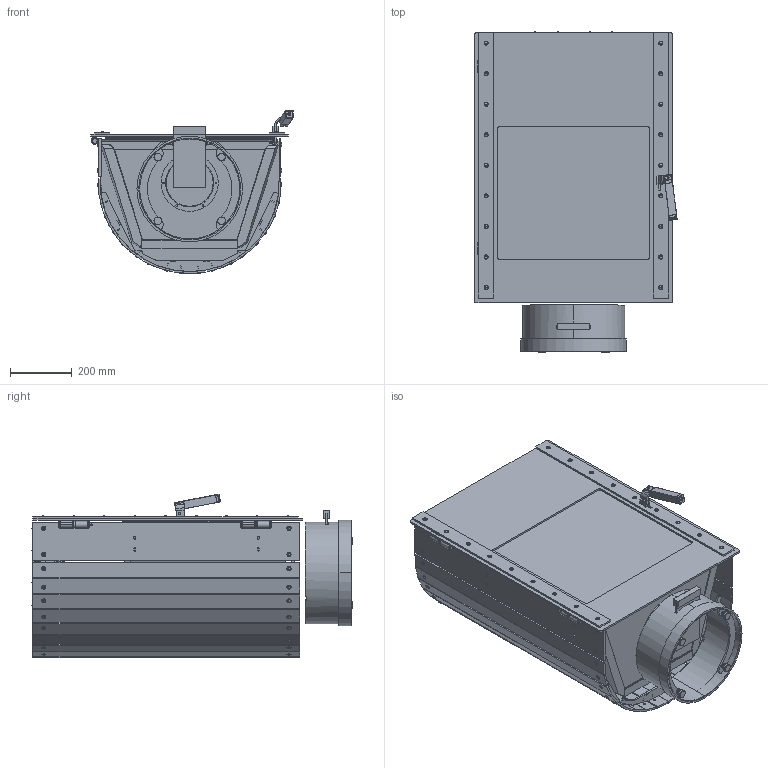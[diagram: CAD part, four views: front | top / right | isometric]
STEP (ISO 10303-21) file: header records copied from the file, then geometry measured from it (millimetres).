
FILE_DESCRIPTION (( 'STEP AP214' ), '1' );
FILE_NAME ('Harrie Leenders Stor.STEP', '2015-03-05T12:22:49', ( 'Rob' ), ( '' ), 'SwSTEP 2.0', 'SolidWorks 2015', '' );
FILE_SCHEMA (( 'AUTOMOTIVE_DESIGN' ));
Length unit declared in the file: millimetre
Products named in the file (1): Harrie Leenders Stor
Bounding box: 656.3 x 1037.25 x 529.53 mm (x, y, z)
Volume: 32564707.5 mm3; surface area: 6570961.5 mm2
Topology: 140 solids, 140 shells, 2265 faces, 5345 edges, 3418 vertices
Faces by surface type: plane 956, cylinder 879, sphere 164, torus 159, cone 99, bspline 8
Entity records: 69106 total; most frequent: CARTESIAN_POINT 13563, DIRECTION 11941, ORIENTED_EDGE 10574, EDGE_CURVE 5287, AXIS2_PLACEMENT_3D 4616, VERTEX_POINT 3394, EDGE_LOOP 2725, VECTOR 2709
